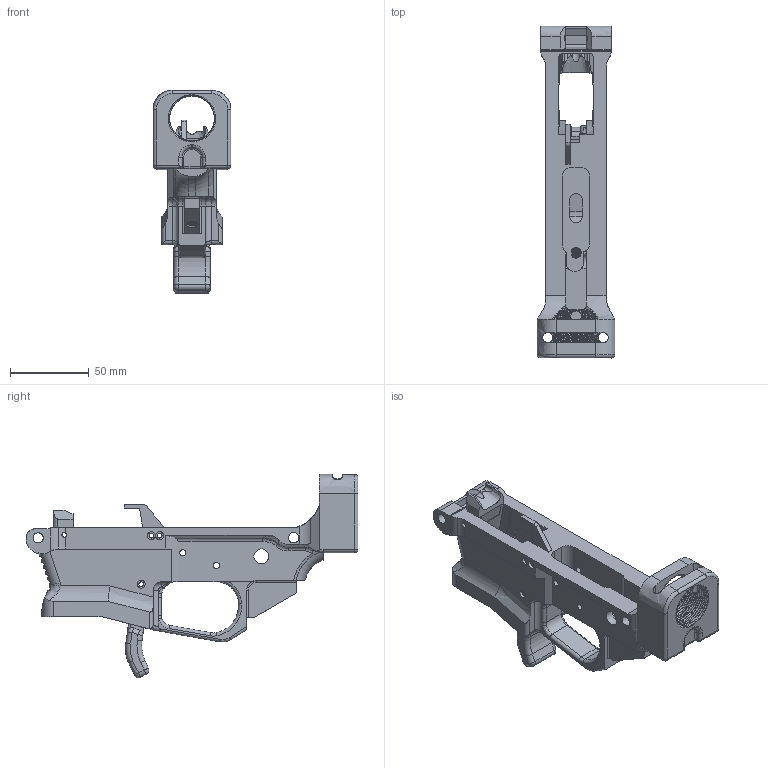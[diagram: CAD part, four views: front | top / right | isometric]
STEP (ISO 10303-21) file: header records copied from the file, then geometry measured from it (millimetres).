
FILE_DESCRIPTION(/* description */ (''),/* implementation_level */ '2;1');
FILE_NAME(/* name */ 'PCC 1.0/STEP/Lowers/AR-9 PPS43 - Final.step',/* time_stamp */ '2022-04-06T16:35:08-04:00',/* author */ (''),/* organization */ (''),/* preprocessor_version */ 'ST-DEVELOPER v18.1',/* originating_system */ 'Autodesk Translation Framework v10.14.0.1471',/* authorisation */ '');
FILE_SCHEMA (('AUTOMOTIVE_DESIGN { 1 0 10303 214 3 1 1 }'));
Products named in the file (5): AR-9 PPS43 - Final; Frame; Ejector (6); Feed Ramp; PPS43 Mag Catch
Assembly tree (4 placements, depth 2):
  AR-9 PPS43 - Final
    Frame
    Ejector (6)
    Feed Ramp
    PPS43 Mag Catch
Bounding box: 49.27 x 210.49 x 128.88 mm (x, y, z)
Volume: 205507.2 mm3; surface area: 73539 mm2
Topology: 4 solids, 4 shells, 728 faces, 2049 edges, 1317 vertices
Faces by surface type: cylinder 302, plane 254, bspline 134, torus 22, sphere 10, cone 6
Full cylindrical faces by diameter (mm): 3 x12, 3.175 x1, 3.962 x4, 5 x6, 5.172 x21, 6.35 x20, 6.5 x6, 6.75 x1, 6.767 x1, 7 x1, 9.525 x2, 28.47 x9, 30.043 x9
Entity records: 52568 total; most frequent: CARTESIAN_POINT 34940, ORIENTED_EDGE 4084, DIRECTION 3007, EDGE_CURVE 2042, VERTEX_POINT 1317, AXIS2_PLACEMENT_3D 1046, LINE 915, VECTOR 915
